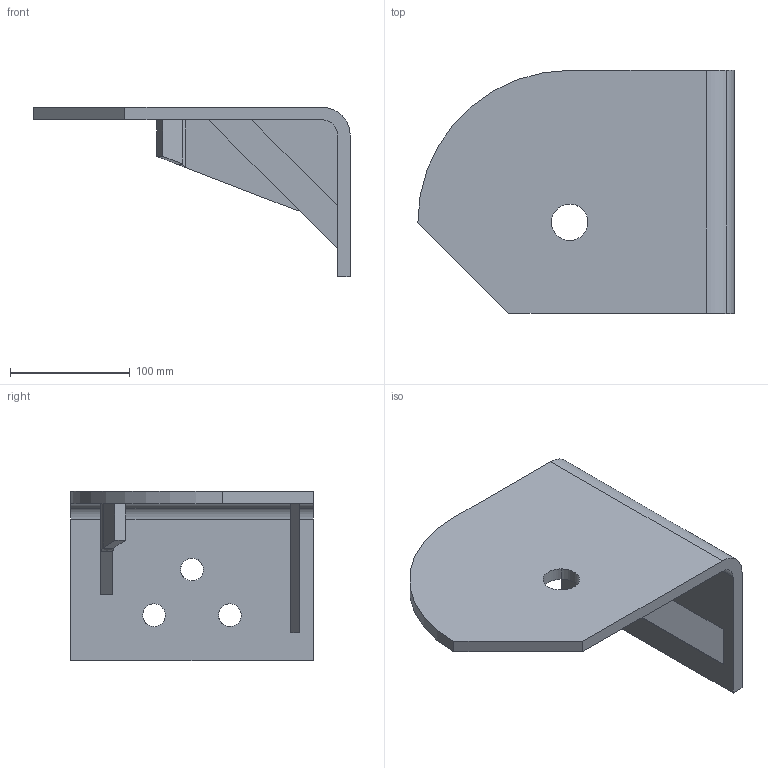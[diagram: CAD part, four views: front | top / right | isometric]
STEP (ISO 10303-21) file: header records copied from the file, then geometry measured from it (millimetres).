
FILE_DESCRIPTION(('STEP AP214'),'1');
FILE_NAME('Bracket.stp','2016-03-07T15:10:40',(' '),(' '),'Spatial InterOp 3D',' ',' ');
FILE_SCHEMA(('automotive_design'));
Length unit declared in the file: metre
Products named in the file (1): BRACE1[2]
Bounding box: 264.54 x 203.2 x 141.72 mm (x, y, z)
Volume: 859520 mm3; surface area: 181155.8 mm2
Topology: 1 solids, 1 shells, 38 faces, 112 edges, 76 vertices
Faces by surface type: plane 20, cylinder 17, bspline 1
Entity records: 2235 total; most frequent: CARTESIAN_POINT 327, DIRECTION 226, ORIENTED_EDGE 224, STYLED_ITEM 140, PRESENTATION_STYLE_ASSIGNMENT 140, COLOUR_RGB 140, EDGE_CURVE 112, CURVE_STYLE 101
